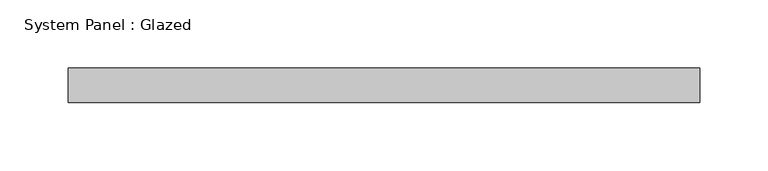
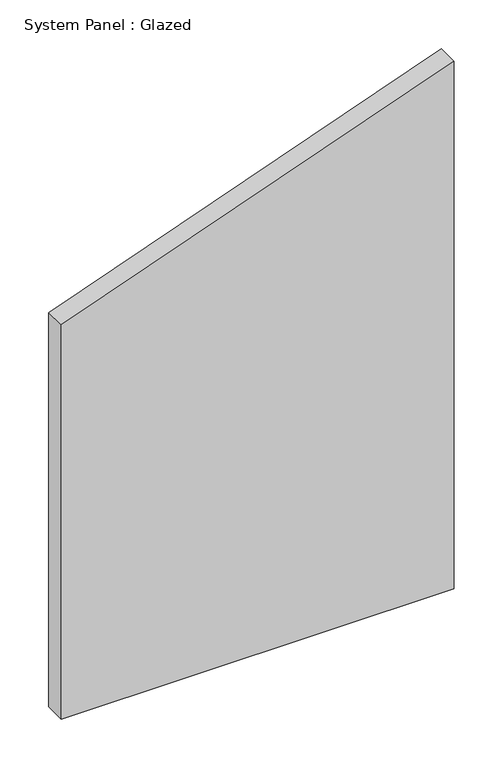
"""IFC4 building model written with IfcOpenShell, lengths in millimetres: plate geometry, System Panel : Glazed."""

from ifc_helpers import new_model, si_unit, point, frame, frame_2d, origin, place, context, project, spatial, polyline, circle_curve, trimmed, segment, composite_curve, outline, extrude, source, transform, mapped, element, save


def system_panel_glazed_4b47f067(model_context):
    return source(origin(), model_context, "Body", "SweptSolid", [
        extrude(outline(composite_curve([segment(polyline([(0.0, -231.775), (0.0, 231.775), (657.8307919, 231.775)]), True, "CONTINUOUS"), segment(trimmed(circle_curve(frame_2d((-2861.0640133, 1233.3558928)), 3658.6588985), [point((657.8307919, 231.775))], [point((491.424078, -231.775))], False, "CARTESIAN"), True, "CONTINUOUS"), segment(polyline([(491.424078, -231.775), (0.0, -231.775)]), True, "CONTINUOUS")], self_intersect=False)), frame((0.0, 19.05, 0.0), z_axis=(0.0, 1.0, 0.0), x_axis=(0.0, 0.0, 1.0)), (0.0, 0.0, 1.0), 25.4),
    ])


if __name__ == "__main__":
    model = new_model("IFC4")
    model_context = context("Model", 3, world=origin())
    ifc_project = project(units=[si_unit("LENGTHUNIT", "METRE", prefix="MILLI")], contexts=[model_context])
    site = spatial("IfcSite", under=ifc_project)
    building = spatial("IfcBuilding", under=site)
    placement = place(None, origin())
    system_panel_glazed_shape = system_panel_glazed_4b47f067(model_context)
    element("IfcPlate", 1, ObjectType="System Panel : Glazed", at=placement, inside=building, context=model_context, shape_type="MappedRepresentation", body=[
        mapped(system_panel_glazed_shape, transform((0.0, 0.0, 0.0), x_axis=(1.0, 0.0, 0.0), y_axis=(0.0, 1.0, 0.0), z_axis=(0.0, 0.0, 1.0))),
    ])
    save(model, "model.ifc")
